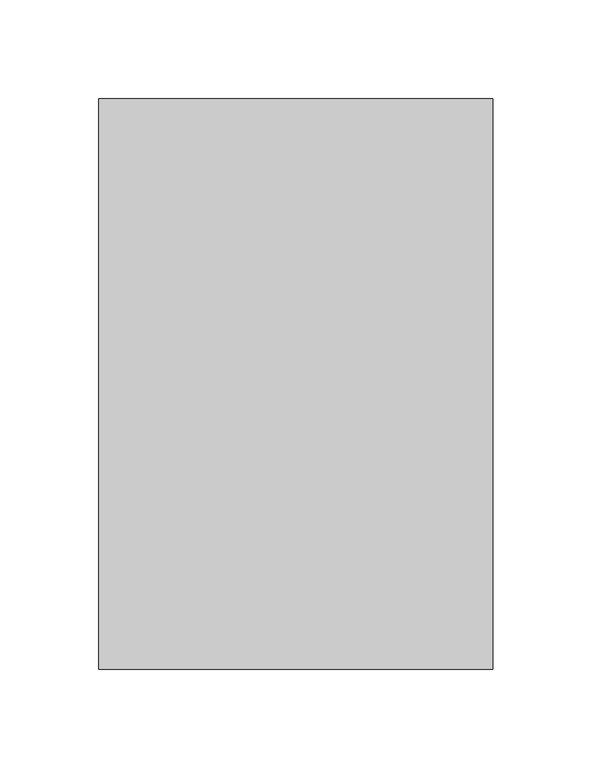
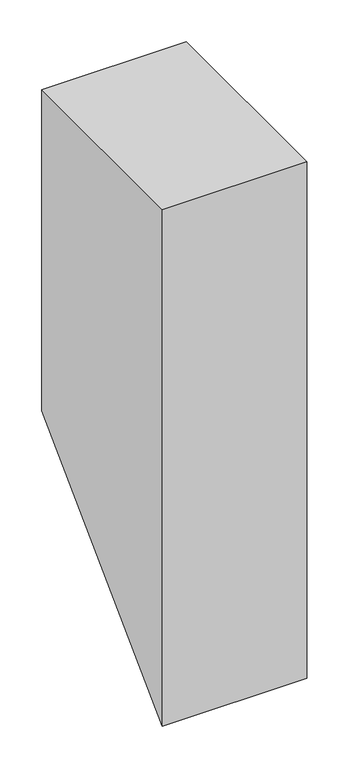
"""IFC4 building model written with IfcOpenShell, lengths in millimetres: beam geometry, appoggiTravi2 : appoggiTravi."""

from ifc_helpers import new_model, si_unit, frame, origin, place, context, project, spatial, polyline, outline, extrude, source, transform, mapped, element, save


def beam_156a2913(model_context):
    return source(origin(), model_context, "Body", "SweptSolid", [
        extrude(outline(polyline([(24702.7284342, -170.0), (24702.7284342, -640.0), (24413.3920265, -926.0), (24413.3920265, -170.0), (24702.7284342, -170.0)])), frame((-571.2723874, 0.0, 0.0), z_axis=(1.0, 0.0, 0.0), x_axis=(0.0, 1.0, 0.0)), (0.0, 0.0, 1.0), 200.0),
    ])


if __name__ == "__main__":
    model = new_model("IFC4")
    model_context = context("Model", 3, world=origin())
    ifc_project = project(units=[si_unit("LENGTHUNIT", "METRE", prefix="MILLI")], contexts=[model_context])
    site = spatial("IfcSite", under=ifc_project)
    building = spatial("IfcBuilding", under=site)
    placement = place(None, origin())
    beam_shape = beam_156a2913(model_context)
    element("IfcBeam", 1, ObjectType="appoggiTravi2 : appoggiTravi", at=placement, inside=building, context=model_context, shape_type="MappedRepresentation", body=[
        mapped(beam_shape, transform((0.0, 0.0, 0.0), x_axis=(1.0, 0.0, 0.0), y_axis=(0.0, 1.0, 0.0), z_axis=(0.0, 0.0, 1.0))),
    ])
    save(model, "model.ifc")
